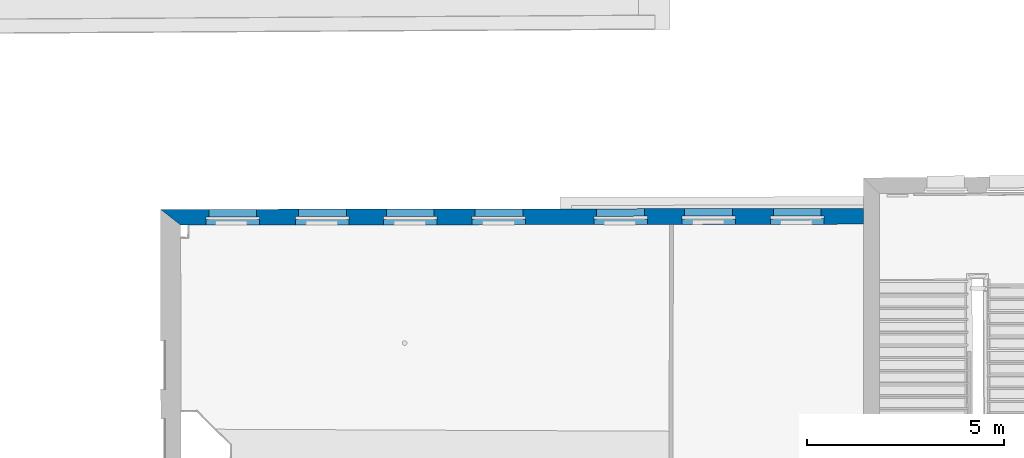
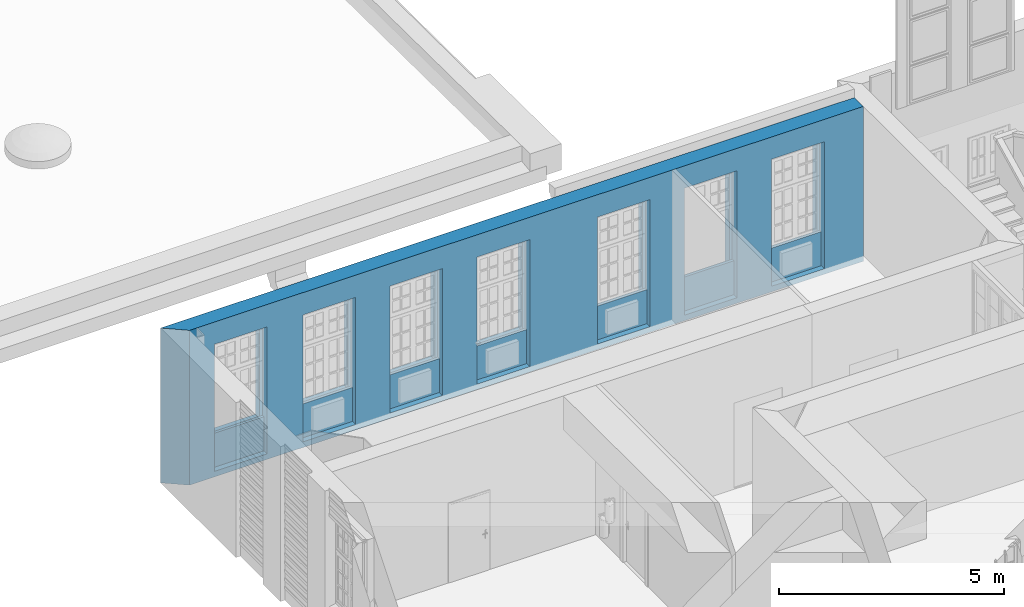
# One storey, part 17 of 90: 1 wall, 7 openings.
"""IFC2X3 building model written with IfcOpenShell, lengths in metres."""

from ifc_helpers import new_model, entity, si_unit, converted_unit, derived_unit, money_unit, direction, frame, origin_with_axes, origin_2d_with_axis, place, context, subcontext, project, spatial, polyline, rectangle, outline, extrude, material, layer, layer_set, layer_usage, type_object, element, save


model = new_model("IFC2X3")

# Units and contexts
model_context = context("Model", 3, precision=1e-05, world=origin_with_axes(), true_north=direction((0.0, 1.0)))
body_context = subcontext(model_context, "Body", "Model", "MODEL_VIEW")
ifc_project = project(units=[si_unit("LENGTHUNIT", "METRE"), si_unit("AREAUNIT", "SQUARE_METRE"), si_unit("VOLUMEUNIT", "CUBIC_METRE"), converted_unit("PLANEANGLEUNIT", "DEGREE", entity("IfcPlaneAngleMeasure", 0.0174532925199), si_unit("PLANEANGLEUNIT", "RADIAN"), dimensions=[0, 0, 0, 0, 0, 0, 0]), money_unit("EUR"), converted_unit("TIMEUNIT", "Year", entity("IfcTimeMeasure", 31556926.0), si_unit("TIMEUNIT", "SECOND"), dimensions=[0, 0, 1, 0, 0, 0, 0]), si_unit("MASSUNIT", "GRAM", prefix="KILO"), si_unit("THERMODYNAMICTEMPERATUREUNIT", "DEGREE_CELSIUS"), si_unit("LUMINOUSINTENSITYUNIT", "LUMEN"), si_unit("ENERGYUNIT", "JOULE", prefix="MEGA"), derived_unit("THERMALCONDUCTANCEUNIT", [(si_unit("POWERUNIT", "WATT"), 1), (si_unit("LENGTHUNIT", "METRE"), -1), (si_unit("THERMODYNAMICTEMPERATUREUNIT", "KELVIN"), -1)]), derived_unit("SPECIFICHEATCAPACITYUNIT", [(si_unit("ENERGYUNIT", "JOULE"), 1), (si_unit("MASSUNIT", "GRAM", prefix="KILO"), -1), (si_unit("THERMODYNAMICTEMPERATUREUNIT", "KELVIN"), -1)]), derived_unit("MASSDENSITYUNIT", [(si_unit("MASSUNIT", "GRAM", prefix="KILO"), 1), (si_unit("VOLUMEUNIT", "CUBIC_METRE"), -1)])], contexts=[model_context])

# Site, building, storey
site_placement = place(None, origin_with_axes())
site = spatial("IfcSite", under=ifc_project, at=site_placement, Name="Gelände", CompositionType="ELEMENT")
building_placement = place(site_placement, origin_with_axes())
building = spatial("IfcBuilding", under=site, at=building_placement, Name="Gebäude", CompositionType="ELEMENT")
storey_placement = place(building_placement, frame((0.0, 0.0, 3.7), z_axis=(0.0, 0.0, 1.0), x_axis=(1.0, 0.0, 0.0)))
storey = spatial("IfcBuildingStorey", under=building, at=storey_placement, Name="1.OBERGESCHOSS", CompositionType="ELEMENT", Elevation=3.7)

# Wall, openings
ifc_material = material(Name="05_ALLGEMEIN - TRAGENDE BAUTEILE")
ifc_layer = layer(ifc_material, 0.4, ventilated="UNKNOWN")
ifc_layer_set = layer_set([ifc_layer], Name="05_ALLGEMEIN - TRAGENDE BAUTEILE 0.4")
ifc_layer_usage = layer_usage(ifc_layer_set, "AXIS2", "NEGATIVE", 0.4)
wall_type = type_object("IfcWallType", Name="05_ALLGEMEIN - TRAGENDE BAUTEILE 400", PredefinedType="ELEMENTEDWALL")
wall_placement = place(storey_placement, frame((-9.84211998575, 26.0537025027, -0.1), z_axis=(0.0, 0.0, 1.0), x_axis=(-0.999999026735, -0.00139518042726, 0.0)))
wall = element("IfcWallStandardCase", 1, at=wall_placement, inside=storey, type_object=wall_type, material=ifc_layer_usage, Name="Wand-029", ObjectType="ELEMENTEDWALL", context=body_context, shape_type="SweptSolid", body=[
    extrude(outline(polyline([(0.410000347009, 0.0), (18.2266194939, 0.0), (17.7168038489, 0.4), (0.410520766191, 0.4), (0.410000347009, 0.0)])), origin_with_axes(), (0.0, 0.0, 1.0), 4.2),
])
opening_1_placement = place(wall_placement, frame((16.3968528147, 0.0, 1.07018733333), z_axis=(0.0, 0.0, 1.0), x_axis=(1.0, 0.0, 0.0)))
element("IfcOpeningElement", 2, at=opening_1_placement, cuts=wall, Name="Fenster-015", context=body_context, shape_type="SweptSolid", body=[
    extrude(rectangle(XDim=1.35197006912, YDim=1.14, at=origin_2d_with_axis()), frame((0.0, 0.83, -0.920187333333), z_axis=(0.0, 0.0, 1.0), x_axis=(1.0, 0.0, 0.0)), (0.0, 0.0, 1.0), 0.920187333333),
    extrude(rectangle(XDim=1.21197006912, YDim=2.456, at=origin_2d_with_axis()), frame((0.0, 0.19, 1.168), z_axis=(0.0, 1.0, 0.0), x_axis=(1.0, 0.0, 0.0)), (0.0, 0.0, -1.0), 0.59),
    extrude(rectangle(XDim=1.35197006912, YDim=2.526, at=origin_2d_with_axis()), frame((0.0, 0.26, 1.263), z_axis=(0.0, -1.0, 0.0), x_axis=(1.0, 0.0, 0.0)), (0.0, 0.0, -1.0), 0.54),
    extrude(rectangle(XDim=1.35197006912, YDim=2.466, at=origin_2d_with_axis()), frame((0.0, 0.19, 1.233), z_axis=(0.0, 1.0, 0.0), x_axis=(1.0, 0.0, 0.0)), (0.0, 0.0, 1.0), 0.07),
])
opening_2_placement = place(wall_placement, frame((14.1251473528, 0.0, 1.07018733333), z_axis=(0.0, 0.0, 1.0), x_axis=(1.0, 0.0, 0.0)))
element("IfcOpeningElement", 3, at=opening_2_placement, cuts=wall, Name="Fenster-015", context=body_context, shape_type="SweptSolid", body=[
    extrude(rectangle(XDim=1.35197006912, YDim=1.14, at=origin_2d_with_axis()), frame((0.0, 0.83, -0.920187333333), z_axis=(0.0, 0.0, 1.0), x_axis=(1.0, 0.0, 0.0)), (0.0, 0.0, 1.0), 0.920187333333),
    extrude(rectangle(XDim=1.21197006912, YDim=2.456, at=origin_2d_with_axis()), frame((0.0, 0.19, 1.168), z_axis=(0.0, 1.0, 0.0), x_axis=(1.0, 0.0, 0.0)), (0.0, 0.0, -1.0), 0.59),
    extrude(rectangle(XDim=1.35197006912, YDim=2.526, at=origin_2d_with_axis()), frame((0.0, 0.26, 1.263), z_axis=(0.0, -1.0, 0.0), x_axis=(1.0, 0.0, 0.0)), (0.0, 0.0, -1.0), 0.54),
    extrude(rectangle(XDim=1.35197006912, YDim=2.466, at=origin_2d_with_axis()), frame((0.0, 0.19, 1.233), z_axis=(0.0, 1.0, 0.0), x_axis=(1.0, 0.0, 0.0)), (0.0, 0.0, 1.0), 0.07),
])
opening_3_placement = place(wall_placement, frame((11.8961609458, 0.0, 1.07018733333), z_axis=(0.0, 0.0, 1.0), x_axis=(1.0, 0.0, 0.0)))
element("IfcOpeningElement", 4, at=opening_3_placement, cuts=wall, Name="Fenster-015", context=body_context, shape_type="SweptSolid", body=[
    extrude(rectangle(XDim=1.35197006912, YDim=1.14, at=origin_2d_with_axis()), frame((0.0, 0.83, -0.920187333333), z_axis=(0.0, 0.0, 1.0), x_axis=(1.0, 0.0, 0.0)), (0.0, 0.0, 1.0), 0.920187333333),
    extrude(rectangle(XDim=1.21197006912, YDim=2.456, at=origin_2d_with_axis()), frame((0.0, 0.19, 1.168), z_axis=(0.0, 1.0, 0.0), x_axis=(1.0, 0.0, 0.0)), (0.0, 0.0, -1.0), 0.59),
    extrude(rectangle(XDim=1.35197006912, YDim=2.526, at=origin_2d_with_axis()), frame((0.0, 0.26, 1.263), z_axis=(0.0, -1.0, 0.0), x_axis=(1.0, 0.0, 0.0)), (0.0, 0.0, -1.0), 0.54),
    extrude(rectangle(XDim=1.35197006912, YDim=2.466, at=origin_2d_with_axis()), frame((0.0, 0.19, 1.233), z_axis=(0.0, 1.0, 0.0), x_axis=(1.0, 0.0, 0.0)), (0.0, 0.0, 1.0), 0.07),
])
opening_4_placement = place(wall_placement, frame((9.65104660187, 0.0, 1.07018733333), z_axis=(0.0, 0.0, 1.0), x_axis=(1.0, 0.0, 0.0)))
element("IfcOpeningElement", 5, at=opening_4_placement, cuts=wall, Name="Fenster-015", context=body_context, shape_type="SweptSolid", body=[
    extrude(rectangle(XDim=1.35197006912, YDim=1.14, at=origin_2d_with_axis()), frame((0.0, 0.83, -0.920187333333), z_axis=(0.0, 0.0, 1.0), x_axis=(1.0, 0.0, 0.0)), (0.0, 0.0, 1.0), 0.920187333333),
    extrude(rectangle(XDim=1.21197006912, YDim=2.456, at=origin_2d_with_axis()), frame((0.0, 0.19, 1.168), z_axis=(0.0, 1.0, 0.0), x_axis=(1.0, 0.0, 0.0)), (0.0, 0.0, -1.0), 0.59),
    extrude(rectangle(XDim=1.35197006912, YDim=2.526, at=origin_2d_with_axis()), frame((0.0, 0.26, 1.263), z_axis=(0.0, -1.0, 0.0), x_axis=(1.0, 0.0, 0.0)), (0.0, 0.0, -1.0), 0.54),
    extrude(rectangle(XDim=1.35197006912, YDim=2.466, at=origin_2d_with_axis()), frame((0.0, 0.19, 1.233), z_axis=(0.0, 1.0, 0.0), x_axis=(1.0, 0.0, 0.0)), (0.0, 0.0, 1.0), 0.07),
])
opening_5_placement = place(wall_placement, frame((2.08969296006, 0.0, 1.07018733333), z_axis=(0.0, 0.0, 1.0), x_axis=(1.0, 0.0, 0.0)))
element("IfcOpeningElement", 6, at=opening_5_placement, cuts=wall, Name="Fenster-015", context=body_context, shape_type="SweptSolid", body=[
    extrude(rectangle(XDim=1.35197006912, YDim=1.14, at=origin_2d_with_axis()), frame((0.0, 0.83, -0.920187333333), z_axis=(0.0, 0.0, 1.0), x_axis=(1.0, 0.0, 0.0)), (0.0, 0.0, 1.0), 0.920187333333),
    extrude(rectangle(XDim=1.21197006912, YDim=2.536, at=origin_2d_with_axis()), frame((0.0, 0.19, 1.128), z_axis=(0.0, 1.0, 0.0), x_axis=(1.0, 0.0, 0.0)), (0.0, 0.0, -1.0), 0.59),
    extrude(rectangle(XDim=1.35197006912, YDim=2.526, at=origin_2d_with_axis()), frame((0.0, 0.26, 1.263), z_axis=(0.0, -1.0, 0.0), x_axis=(1.0, 0.0, 0.0)), (0.0, 0.0, -1.0), 0.54),
    extrude(rectangle(XDim=1.35197006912, YDim=2.466, at=origin_2d_with_axis()), frame((0.0, 0.19, 1.233), z_axis=(0.0, 1.0, 0.0), x_axis=(1.0, 0.0, 0.0)), (0.0, 0.0, 1.0), 0.07),
])
opening_6_placement = place(wall_placement, frame((4.33420708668, 0.0, 1.07018733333), z_axis=(0.0, 0.0, 1.0), x_axis=(1.0, 0.0, 0.0)))
element("IfcOpeningElement", 7, at=opening_6_placement, cuts=wall, Name="Fenster-015", context=body_context, shape_type="SweptSolid", body=[
    extrude(rectangle(XDim=1.35197006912, YDim=1.14, at=origin_2d_with_axis()), frame((0.0, 0.83, -0.920187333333), z_axis=(0.0, 0.0, 1.0), x_axis=(1.0, 0.0, 0.0)), (0.0, 0.0, 1.0), 0.920187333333),
    extrude(rectangle(XDim=1.21197006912, YDim=2.536, at=origin_2d_with_axis()), frame((0.0, 0.19, 1.128), z_axis=(0.0, 1.0, 0.0), x_axis=(1.0, 0.0, 0.0)), (0.0, 0.0, -1.0), 0.59),
    extrude(rectangle(XDim=1.35197006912, YDim=2.526, at=origin_2d_with_axis()), frame((0.0, 0.26, 1.263), z_axis=(0.0, -1.0, 0.0), x_axis=(1.0, 0.0, 0.0)), (0.0, 0.0, -1.0), 0.54),
    extrude(rectangle(XDim=1.35197006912, YDim=2.466, at=origin_2d_with_axis()), frame((0.0, 0.19, 1.233), z_axis=(0.0, 1.0, 0.0), x_axis=(1.0, 0.0, 0.0)), (0.0, 0.0, 1.0), 0.07),
])
opening_7_placement = place(wall_placement, frame((6.56595478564, 0.0, 1.07018733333), z_axis=(0.0, 0.0, 1.0), x_axis=(1.0, 0.0, 0.0)))
element("IfcOpeningElement", 8, at=opening_7_placement, cuts=wall, Name="Fenster-015", context=body_context, shape_type="SweptSolid", body=[
    extrude(rectangle(XDim=1.35197006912, YDim=1.14, at=origin_2d_with_axis()), frame((0.0, 0.83, -0.920187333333), z_axis=(0.0, 0.0, 1.0), x_axis=(1.0, 0.0, 0.0)), (0.0, 0.0, 1.0), 0.920187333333),
    extrude(rectangle(XDim=1.21197006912, YDim=2.536, at=origin_2d_with_axis()), frame((0.0, 0.19, 1.128), z_axis=(0.0, 1.0, 0.0), x_axis=(1.0, 0.0, 0.0)), (0.0, 0.0, -1.0), 0.59),
    extrude(rectangle(XDim=1.35197006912, YDim=2.526, at=origin_2d_with_axis()), frame((0.0, 0.26, 1.263), z_axis=(0.0, -1.0, 0.0), x_axis=(1.0, 0.0, 0.0)), (0.0, 0.0, -1.0), 0.54),
    extrude(rectangle(XDim=1.35197006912, YDim=2.466, at=origin_2d_with_axis()), frame((0.0, 0.19, 1.233), z_axis=(0.0, 1.0, 0.0), x_axis=(1.0, 0.0, 0.0)), (0.0, 0.0, 1.0), 0.07),
])

save(model, "model.ifc")
